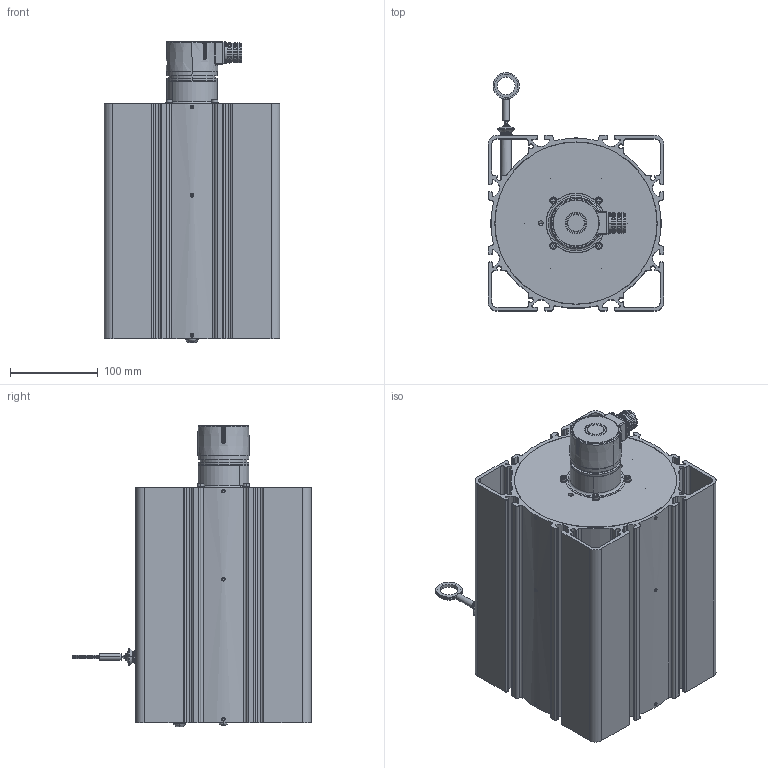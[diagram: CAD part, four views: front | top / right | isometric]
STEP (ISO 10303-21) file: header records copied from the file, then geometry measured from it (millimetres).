
FILE_DESCRIPTION((''),'2;1');
FILE_NAME('WDS-30000-P200-SR-SSI_02_ASM','2024-05-29T07:14:18',('15000597'),(''),'CREO PARAMETRIC BY PTC INC, 2022164','CREO PARAMETRIC BY PTC INC, 2022164','');
FILE_SCHEMA(('AUTOMOTIVE_DESIGN { 1 0 10303 214 1 1 1 1 }'));
Products named in the file (44): TELESO_SENZORU_30M_P200_AF0; HRIDEL_MOTORU_30-40M_P200_AF0; BOCNICE_VNEJSI_P200_AF0; LOZISKO_6000_10X26X8_AF1; PREDNI_STENA_P200_DIRA_S_POJIST_AF0; SROUB_ISO7380_COC_HEX_C_M5X10_AF0; TRUBKA_PRUCHODKY_P200_AF0; PRUCHODKA_P200; GUMOVY_VLNOVEC; STIRATKO_LANKO_FORMA_0I8; DUTY_NYT_A_3X10; GP_7I5X2I0X25_EXT_EPDM60; LANKO_7X7_0I63_0I8_AF0; OKO_LANKA_TRE; CU_HULSE_2X1I4X5_AF0; SPOJKA_GS5_PR6_2I1_AF0; KOLIK_PRUZNY_2X8_AF0; SROUB_ISO4026_STAV_HEX_M4X4_AF0; SROUB_ISO4026_STAV_HEX_M4X4_AF1; SROUB_ISO4026_STAV_HEX_M4X4_AF2; SROUB_ISO4026_STAV_HEX_M4X4_AF3; SROUB_ISO4026_STAV_HEX_M4X4_AF4; SROUB_ISO4026_STAV_HEX_M4X4_AF5; SROUB_ISO4026_STAV_HEX_M4X4_AF6; SROUB_ISO4026_STAV_HEX_M4X4_AF7; SROUB_ISO4026_STAV_HEX_M4X4_AF8; SROUB_ISO4026_STAV_HEX_M4X4_AF9; SROUB_ISO4026_STAV_HEX_M4X4_AF10; SROUB_ISO4026_STAV_HEX_M4X4_AF11; PRIRUBA_SYNCHRO_P96_P200_AF0; PODLOZKA_M4_VEJIROVA_AF3; PODLOZKA_M4_VEJIROVA_AF4; PODLOZKA_M4_VEJIROVA_AF5; PODLOZKA_M4_VEJIROVA_AF6; SROUB_ISO4762_VALC_HEX_M4X6_AF0; SROUB_ISO4762_VALC_HEX_M4X6_AF1; SROUB_ISO4762_VALC_HEX_M4X6_AF2; SROUB_ISO4762_VALC_HEX_M4X6_AF3; SPOJKA_KRIZ_AF0; SPOJKA_GS5_PR6_AF0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
Assembly tree (43 placements, depth 2):
  WDS-30000-P200-SR-SSI_02_ASM
    TELESO_SENZORU_30M_P200_AF0
    HRIDEL_MOTORU_30-40M_P200_AF0
    BOCNICE_VNEJSI_P200_AF0
    LOZISKO_6000_10X26X8_AF1
    PREDNI_STENA_P200_DIRA_S_POJIST_AF0
    SROUB_ISO7380_COC_HEX_C_M5X10_AF0
    TRUBKA_PRUCHODKY_P200_AF0
    PRUCHODKA_P200
    GUMOVY_VLNOVEC
    STIRATKO_LANKO_FORMA_0I8
    DUTY_NYT_A_3X10
    GP_7I5X2I0X25_EXT_EPDM60
    LANKO_7X7_0I63_0I8_AF0
    OKO_LANKA_TRE
    CU_HULSE_2X1I4X5_AF0
    SPOJKA_GS5_PR6_2I1_AF0
    KOLIK_PRUZNY_2X8_AF0
    SROUB_ISO4026_STAV_HEX_M4X4_AF0
    SROUB_ISO4026_STAV_HEX_M4X4_AF1
    SROUB_ISO4026_STAV_HEX_M4X4_AF2
    SROUB_ISO4026_STAV_HEX_M4X4_AF3
    SROUB_ISO4026_STAV_HEX_M4X4_AF4
    SROUB_ISO4026_STAV_HEX_M4X4_AF5
    SROUB_ISO4026_STAV_HEX_M4X4_AF6
    SROUB_ISO4026_STAV_HEX_M4X4_AF7
    SROUB_ISO4026_STAV_HEX_M4X4_AF8
    SROUB_ISO4026_STAV_HEX_M4X4_AF9
    SROUB_ISO4026_STAV_HEX_M4X4_AF10
    SROUB_ISO4026_STAV_HEX_M4X4_AF11
    PRIRUBA_SYNCHRO_P96_P200_AF0
    PODLOZKA_M4_VEJIROVA_AF3
    PODLOZKA_M4_VEJIROVA_AF4
    PODLOZKA_M4_VEJIROVA_AF5
    PODLOZKA_M4_VEJIROVA_AF6
    SROUB_ISO4762_VALC_HEX_M4X6_AF0
    SROUB_ISO4762_VALC_HEX_M4X6_AF1
    SROUB_ISO4762_VALC_HEX_M4X6_AF2
    SROUB_ISO4762_VALC_HEX_M4X6_AF3
    SPOJKA_KRIZ_AF0
    SPOJKA_GS5_PR6_AF0
    SROUB_ISO4029_STAV_HEX_M3X3_AF0
    SROUB_ISO7380_COC_HEX_M8X8_AF0
    BAU_SYNCHRO_SSI_EN580EIML-SU06
Bounding box: 200 x 271.7 x 343.35 mm (x, y, z)
Volume: 1655755.2 mm3; surface area: 824759.7 mm2
Topology: 34 solids, 72 shells, 2668 faces, 7024 edges, 4537 vertices
Faces by surface type: plane 1039, cylinder 812, bspline 295, cone 275, torus 159, extrusion 50, sphere 22, revolution 16
Entity records: 138904 total; most frequent: CARTESIAN_POINT 51105, ORIENTED_EDGE 13738, DIRECTION 12638, EDGE_CURVE 6964, AXIS2_PLACEMENT_3D 4788, PRESENTATION_STYLE_ASSIGNMENT 4775, STYLED_ITEM 4775, VERTEX_POINT 4537
